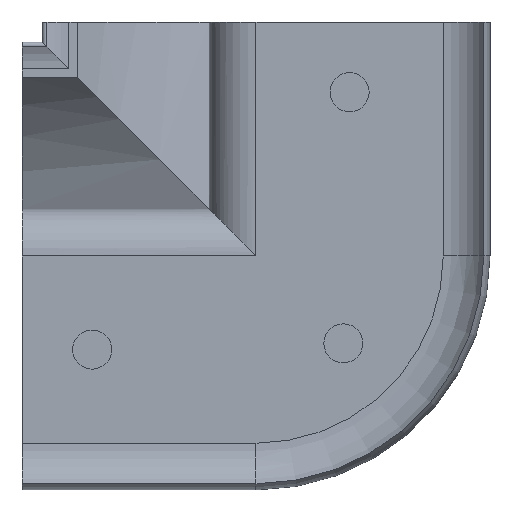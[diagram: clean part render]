
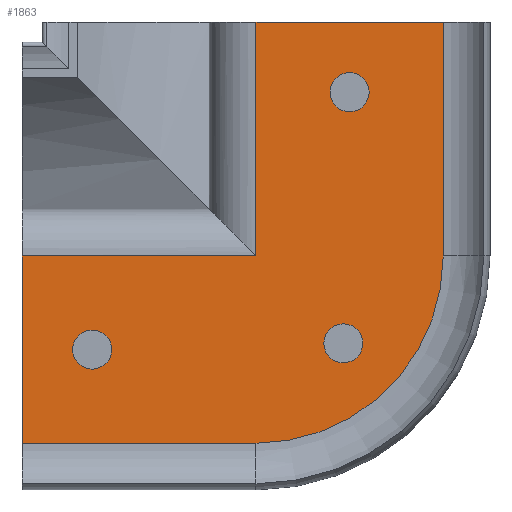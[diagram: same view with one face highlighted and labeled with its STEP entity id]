
A CAD part, front view. The second image highlights one B-rep face of the part: STEP entity #1863.
In plain terms, the highlighted planar face has unit normal (0, -1, 0).
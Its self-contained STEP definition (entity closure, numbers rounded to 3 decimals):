
#40 = EDGE_CURVE ( 'NONE', #1705, #249, #704, .T. ) ;
#41 = VECTOR ( 'NONE', #851, 1000. ) ;
#80 = CARTESIAN_POINT ( 'NONE',  ( -7., 0., 0. ) ) ;
#97 = CARTESIAN_POINT ( 'NONE',  ( -21., 0., -27. ) ) ;
#100 = CARTESIAN_POINT ( 'NONE',  ( -6., 0., -27. ) ) ;
#128 = ORIENTED_EDGE ( 'NONE', *, *, #953, .T. ) ;
#130 = EDGE_CURVE ( 'NONE', #1435, #1155, #329, .T. ) ;
#136 = CARTESIAN_POINT ( 'NONE',  ( 6., 0., -15. ) ) ;
#189 = EDGE_CURVE ( 'NONE', #1744, #1546, #531, .T. ) ;
#210 = CARTESIAN_POINT ( 'NONE',  ( 0., 0., -4.5 ) ) ;
#218 = CIRCLE ( 'NONE', #1422, 1.25 ) ;
#240 = CIRCLE ( 'NONE', #489, 1.25 ) ;
#249 = VERTEX_POINT ( 'NONE', #100 ) ;
#320 = CARTESIAN_POINT ( 'NONE',  ( 6., 0., 0. ) ) ;
#323 = DIRECTION ( 'NONE',  ( 0., 1., 0. ) ) ;
#329 = LINE ( 'NONE', #1433, #1585 ) ;
#334 = ORIENTED_EDGE ( 'NONE', *, *, #574, .T. ) ;
#344 = DIRECTION ( 'NONE',  ( 0., 0., 1. ) ) ;
#345 = CARTESIAN_POINT ( 'NONE',  ( -6., 0., 0. ) ) ;
#376 = ORIENTED_EDGE ( 'NONE', *, *, #614, .T. ) ;
#395 = EDGE_LOOP ( 'NONE', ( #1756 ) ) ;
#423 = DIRECTION ( 'NONE',  ( 0., 1., 0. ) ) ;
#459 = FACE_BOUND ( 'NONE', #1292, .T. ) ;
#483 = EDGE_LOOP ( 'NONE', ( #1429, #376, #960, #623, #1488, #1370, #334 ) ) ;
#489 = AXIS2_PLACEMENT_3D ( 'NONE', #1367, #898, #1533 ) ;
#498 = EDGE_CURVE ( 'NONE', #249, #551, #1209, .T. ) ;
#501 = EDGE_CURVE ( 'NONE', #551, #1155, #1054, .T. ) ;
#531 = LINE ( 'NONE', #80, #41 ) ;
#551 = VERTEX_POINT ( 'NONE', #862 ) ;
#553 = DIRECTION ( 'NONE',  ( 0., 0., -1. ) ) ;
#574 = EDGE_CURVE ( 'NONE', #1705, #1546, #1644, .T. ) ;
#578 = VECTOR ( 'NONE', #1013, 1000. ) ;
#605 = EDGE_CURVE ( 'NONE', #1373, #1373, #218, .T. ) ;
#614 = EDGE_CURVE ( 'NONE', #1744, #1435, #933, .T. ) ;
#623 = ORIENTED_EDGE ( 'NONE', *, *, #501, .F. ) ;
#625 = CARTESIAN_POINT ( 'NONE',  ( -0.402, 0., -19.348 ) ) ;
#704 = CIRCLE ( 'NONE', #1256, 12. ) ;
#749 = DIRECTION ( 'NONE',  ( 0., 1., 0. ) ) ;
#789 = VERTEX_POINT ( 'NONE', #1066 ) ;
#791 = PLANE ( 'NONE',  #920 ) ;
#793 = EDGE_CURVE ( 'NONE', #789, #789, #913, .T. ) ;
#811 = AXIS2_PLACEMENT_3D ( 'NONE', #210, #323, #344 ) ;
#832 = VECTOR ( 'NONE', #553, 1000. ) ;
#851 = DIRECTION ( 'NONE',  ( 1., 0., 0. ) ) ;
#862 = CARTESIAN_POINT ( 'NONE',  ( -21., 0., -27. ) ) ;
#890 = DIRECTION ( 'NONE',  ( 0., 0., 1. ) ) ;
#898 = DIRECTION ( 'NONE',  ( 0., 1., 0. ) ) ;
#913 = CIRCLE ( 'NONE', #811, 1.25 ) ;
#916 = DIRECTION ( 'NONE',  ( 0., 0., 1. ) ) ;
#920 = AXIS2_PLACEMENT_3D ( 'NONE', #1880, #749, #916 ) ;
#933 = LINE ( 'NONE', #940, #832 ) ;
#940 = CARTESIAN_POINT ( 'NONE',  ( -6., 0., -9. ) ) ;
#953 = EDGE_CURVE ( 'NONE', #1718, #1718, #240, .T. ) ;
#960 = ORIENTED_EDGE ( 'NONE', *, *, #130, .T. ) ;
#1001 = ORIENTED_EDGE ( 'NONE', *, *, #605, .T. ) ;
#1004 = VECTOR ( 'NONE', #890, 1000. ) ;
#1013 = DIRECTION ( 'NONE',  ( 0., 0., 1. ) ) ;
#1035 = CARTESIAN_POINT ( 'NONE',  ( -0.402, 0., -20.598 ) ) ;
#1054 = LINE ( 'NONE', #97, #578 ) ;
#1066 = CARTESIAN_POINT ( 'NONE',  ( 0., 0., -3.25 ) ) ;
#1086 = CARTESIAN_POINT ( 'NONE',  ( -16.5, 0., -19.75 ) ) ;
#1087 = FACE_BOUND ( 'NONE', #395, .T. ) ;
#1155 = VERTEX_POINT ( 'NONE', #1649 ) ;
#1197 = VECTOR ( 'NONE', #1487, 1000. ) ;
#1209 = LINE ( 'NONE', #1357, #1197 ) ;
#1256 = AXIS2_PLACEMENT_3D ( 'NONE', #1785, #423, #1943 ) ;
#1292 = EDGE_LOOP ( 'NONE', ( #1001 ) ) ;
#1346 = DIRECTION ( 'NONE',  ( 0., 1., 0. ) ) ;
#1357 = CARTESIAN_POINT ( 'NONE',  ( -6., 0., -27. ) ) ;
#1365 = CARTESIAN_POINT ( 'NONE',  ( -6., 0., -15. ) ) ;
#1367 = CARTESIAN_POINT ( 'NONE',  ( -16.5, 0., -21. ) ) ;
#1370 = ORIENTED_EDGE ( 'NONE', *, *, #40, .F. ) ;
#1373 = VERTEX_POINT ( 'NONE', #625 ) ;
#1395 = FACE_OUTER_BOUND ( 'NONE', #483, .T. ) ;
#1422 = AXIS2_PLACEMENT_3D ( 'NONE', #1035, #1346, #1964 ) ;
#1429 = ORIENTED_EDGE ( 'NONE', *, *, #189, .F. ) ;
#1433 = CARTESIAN_POINT ( 'NONE',  ( -21., 0., -15. ) ) ;
#1435 = VERTEX_POINT ( 'NONE', #1365 ) ;
#1487 = DIRECTION ( 'NONE',  ( -1., 0., 0. ) ) ;
#1488 = ORIENTED_EDGE ( 'NONE', *, *, #498, .F. ) ;
#1533 = DIRECTION ( 'NONE',  ( 0., 0., 1. ) ) ;
#1546 = VERTEX_POINT ( 'NONE', #320 ) ;
#1567 = FACE_BOUND ( 'NONE', #1914, .T. ) ;
#1585 = VECTOR ( 'NONE', #1740, 1000. ) ;
#1644 = LINE ( 'NONE', #136, #1004 ) ;
#1649 = CARTESIAN_POINT ( 'NONE',  ( -21., 0., -15. ) ) ;
#1705 = VERTEX_POINT ( 'NONE', #1902 ) ;
#1718 = VERTEX_POINT ( 'NONE', #1086 ) ;
#1740 = DIRECTION ( 'NONE',  ( -1., 0., 0. ) ) ;
#1744 = VERTEX_POINT ( 'NONE', #345 ) ;
#1756 = ORIENTED_EDGE ( 'NONE', *, *, #793, .T. ) ;
#1785 = CARTESIAN_POINT ( 'NONE',  ( -6., 0., -15. ) ) ;
#1863 = ADVANCED_FACE ( 'NONE', ( #1395, #459, #1087, #1567 ), #791, .F. ) ;
#1880 = CARTESIAN_POINT ( 'NONE',  ( -12., 0., -9. ) ) ;
#1902 = CARTESIAN_POINT ( 'NONE',  ( 6., 0., -15. ) ) ;
#1914 = EDGE_LOOP ( 'NONE', ( #128 ) ) ;
#1943 = DIRECTION ( 'NONE',  ( 0., 0., 1. ) ) ;
#1964 = DIRECTION ( 'NONE',  ( 0., 0., 1. ) ) ;
